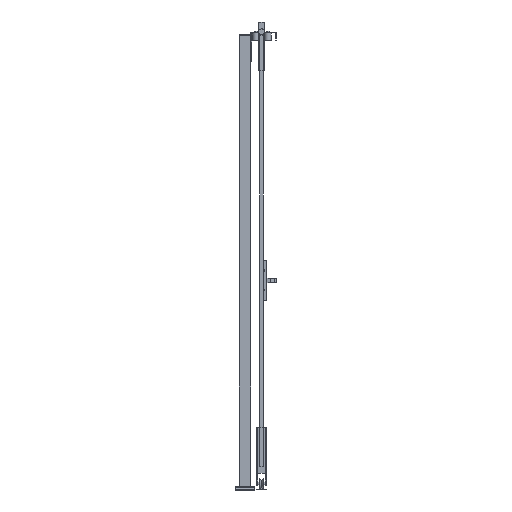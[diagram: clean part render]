
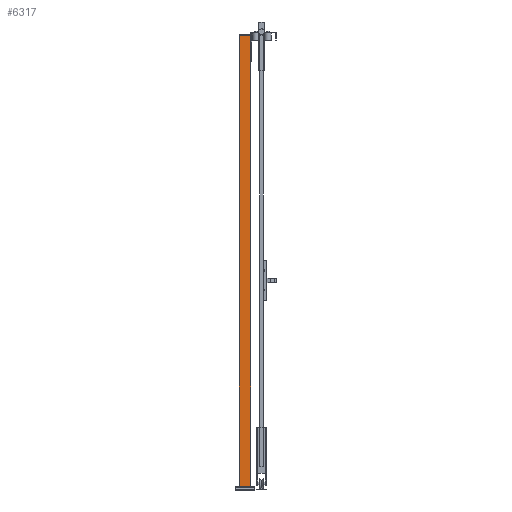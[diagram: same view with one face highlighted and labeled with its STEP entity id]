
A CAD part, left-side view. The second image highlights one B-rep face of the part: STEP entity #6317.
In plain terms, the highlighted planar face has unit normal (-1, 0, 0) as drawn and (0, 1, 0) by its records, which use the part's own axes.
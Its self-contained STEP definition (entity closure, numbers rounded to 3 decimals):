
#667=FACE_OUTER_BOUND('',#1119,.T.);
#1119=EDGE_LOOP('',(#3897,#3898,#3899,#3900));
#1636=VERTEX_POINT('',#12499);
#1637=VERTEX_POINT('',#12501);
#1639=VERTEX_POINT('',#12507);
#1642=VERTEX_POINT('',#12512);
#2560=EDGE_CURVE('',#1636,#1637,#7176,.T.);
#2566=EDGE_CURVE('',#1642,#1639,#7182,.T.);
#2569=EDGE_CURVE('',#1637,#1642,#7185,.T.);
#2570=EDGE_CURVE('',#1636,#1639,#7186,.T.);
#3897=ORIENTED_EDGE('',*,*,#2570,.T.);
#3898=ORIENTED_EDGE('',*,*,#2566,.F.);
#3899=ORIENTED_EDGE('',*,*,#2569,.F.);
#3900=ORIENTED_EDGE('',*,*,#2560,.F.);
#5929=PLANE('',#9046);
#6317=ADVANCED_FACE('',(#667),#5929,.F.);
#7176=LINE('',#12502,#8158);
#7182=LINE('',#12514,#8164);
#7185=LINE('',#12519,#8167);
#7186=LINE('',#12521,#8168);
#8158=VECTOR('',#9963,1.);
#8164=VECTOR('',#9971,1.);
#8167=VECTOR('',#9978,1.);
#8168=VECTOR('',#9981,1.);
#9046=AXIS2_PLACEMENT_3D('',#12520,#9979,#9980);
#9963=DIRECTION('',(-1.,0.,0.));
#9971=DIRECTION('',(1.,0.,0.));
#9978=DIRECTION('',(0.,0.,-1.));
#9979=DIRECTION('center_axis',(0.,-1.,0.));
#9980=DIRECTION('ref_axis',(0.,0.,-1.));
#9981=DIRECTION('',(0.,0.,-1.));
#12499=CARTESIAN_POINT('',(30.,30.,2320.));
#12501=CARTESIAN_POINT('',(-30.,30.,2320.));
#12502=CARTESIAN_POINT('',(0.,30.,2320.));
#12507=CARTESIAN_POINT('',(30.,30.,20.));
#12512=CARTESIAN_POINT('',(-30.,30.,20.));
#12514=CARTESIAN_POINT('',(0.,30.,20.));
#12519=CARTESIAN_POINT('',(-30.,30.,1170.));
#12520=CARTESIAN_POINT('Origin',(0.,30.,
1170.));
#12521=CARTESIAN_POINT('',(30.,30.,1170.));
